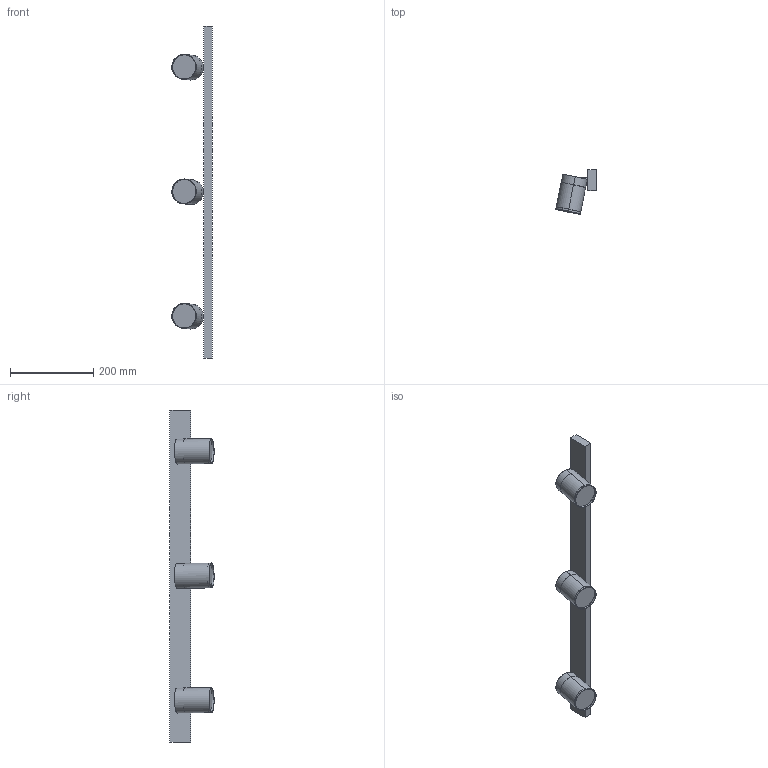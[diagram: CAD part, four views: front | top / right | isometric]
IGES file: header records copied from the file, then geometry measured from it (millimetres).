
Start section: SolidWorks IGES file using analytic representation for surfaces
Global section: file name: C:\Users\Agus\Desktop\NOVEDADES SEPT 2022 - copia\TÉCNICO\T1278-4\T1278-4.IGS; native system: SolidWorks 2018; preprocessor: SolidWorks 2018; author: Agus; date: 220622.130226; units: millimetre
Bounding box: 97.38 x 106.46 x 800 mm (x, y, z)
Surface area: 205310.8 mm2 (no closed solid volume)
Topology: 0 solids, 0 shells, 174 faces, 4434 edges, 4422 vertices
Faces by surface type: revolution 111, bspline 63
